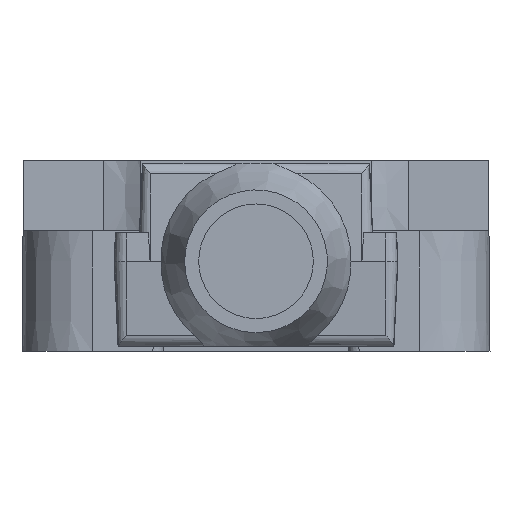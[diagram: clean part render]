
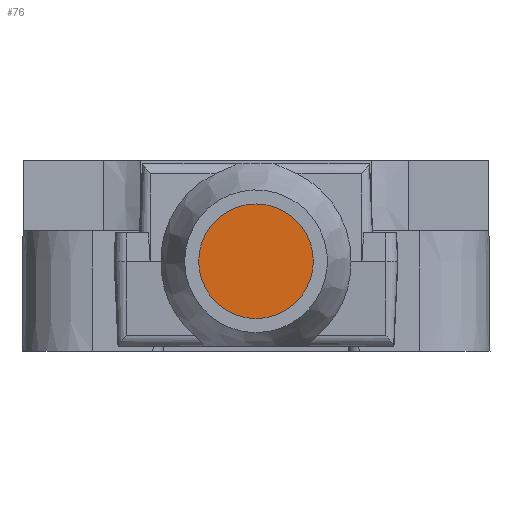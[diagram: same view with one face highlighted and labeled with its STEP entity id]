
A CAD part, front view. The second image highlights one B-rep face of the part: STEP entity #76.
In plain terms, the highlighted planar face has unit normal (0, -1, 0).
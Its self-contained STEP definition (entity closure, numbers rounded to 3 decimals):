
#76 = ADVANCED_FACE( '', ( #148 ), #149, .F. );
#148 = FACE_OUTER_BOUND( '', #297, .T. );
#149 = PLANE( '', #298 );
#297 = EDGE_LOOP( '', ( #457 ) );
#298 = AXIS2_PLACEMENT_3D( '', #458, #459, #460 );
#457 = ORIENTED_EDGE( '', *, *, #1027, .T. );
#458 = CARTESIAN_POINT( '', ( 0., -261.99, 2.225 ) );
#459 = DIRECTION( '', ( 0., 1., 0. ) );
#460 = DIRECTION( '', ( 0., 0., 1. ) );
#1027 = EDGE_CURVE( '', #1221, #1221, #1222, .T. );
#1221 = VERTEX_POINT( '', #1593 );
#1222 = CIRCLE( '', #1594, 2.45 );
#1593 = CARTESIAN_POINT( '', ( 0., -261.99, -2.675 ) );
#1594 = AXIS2_PLACEMENT_3D( '', #2138, #2139, #2140 );
#2138 = CARTESIAN_POINT( '', ( 0., -261.99, -0.225 ) );
#2139 = DIRECTION( '', ( 0., -1., 0. ) );
#2140 = DIRECTION( '', ( 0., 0., -1. ) );
